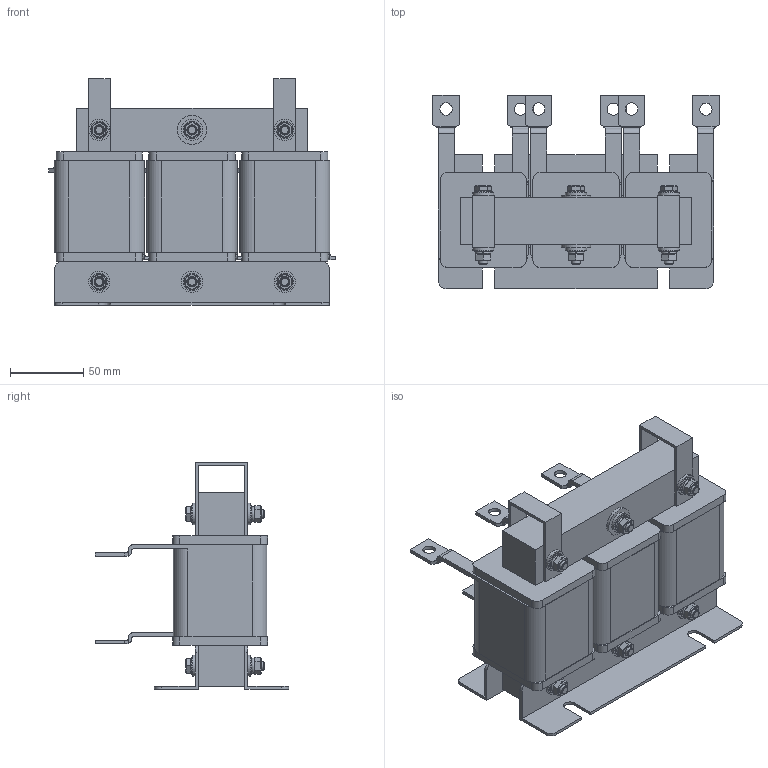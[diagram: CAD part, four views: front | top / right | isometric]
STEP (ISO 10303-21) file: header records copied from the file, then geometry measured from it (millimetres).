
FILE_DESCRIPTION(('STEP AP203'), '1');
FILE_NAME('栖闉罻 _ IMF-30_60-4', '', ('UNSPECIFIED'), ('UNSPECIFIED'), 'ASCON STEP Converter 1.6', 'ASCON Math Kernel', '');
FILE_SCHEMA(('CONFIG_CONTROL_DESIGN'));
Length unit declared in the file: millimetre
Products named in the file (13): IMF-30_60-4
Assembly tree (59 placements, depth 2):
  IMF-30_60-4
    IMF-30_60-4
    IMF-30_60-4  x2
    IMF-30_60-4  x6
    IMF-30_60-4  x3
    IMF-30_60-4
    IMF-30_60-4  x2
    IMF-30_60-4  x2
    IMF-30_60-4  x12
    IMF-30_60-4  x12
    IMF-30_60-4  x6
    IMF-30_60-4  x6
    IMF-30_60-4  x6
Bounding box: 196 x 132.5 x 155 mm (x, y, z)
Volume: 1238191.5 mm3; surface area: 251547.2 mm2
Topology: 59 solids, 59 shells, 690 faces, 1524 edges, 958 vertices
Faces by surface type: plane 502, cylinder 158, cone 18, torus 12
Full cylindrical faces by diameter (mm): 6 x54, 8.4 x6, 12 x12, 14.6 x12, 20 x2
Entity records: 6927 total; most frequent: CARTESIAN_POINT 1155, DIRECTION 912, ORIENTED_EDGE 754, EDGE_CURVE 377, AXIS2_PLACEMENT_3D 318, LINE 276, VECTOR 276, VERTEX_POINT 257
